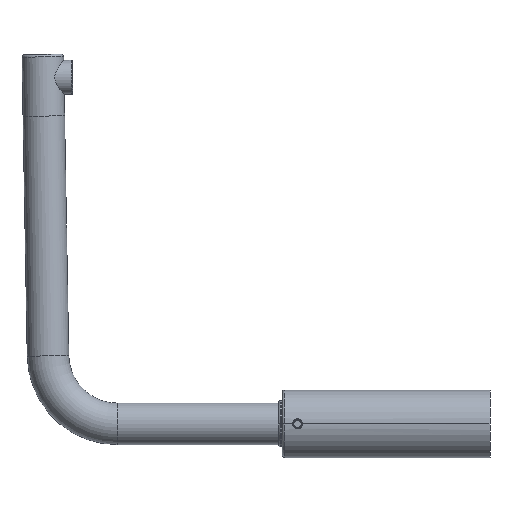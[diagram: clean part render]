
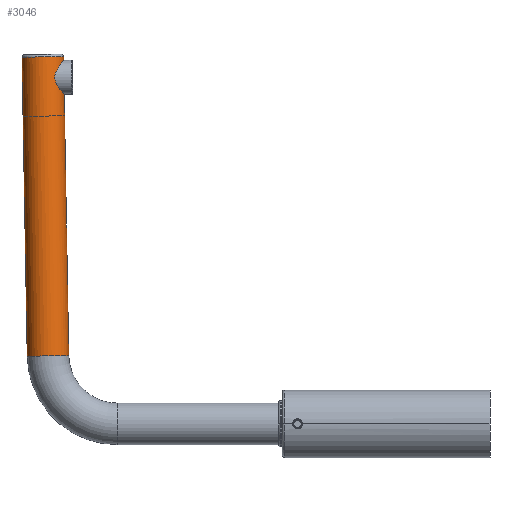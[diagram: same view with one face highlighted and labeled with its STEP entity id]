
A CAD part, left-side view. The second image highlights one B-rep face of the part: STEP entity #3046.
In plain terms, the highlighted cylindrical face has radius 13.5 mm (diameter 27 mm), a partial arc.
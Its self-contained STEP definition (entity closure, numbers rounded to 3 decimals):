
#1089=CARTESIAN_POINT('',(0.,290.584,238.494));
#1090=DIRECTION('',(0.,-0.017,-1.));
#1091=DIRECTION('',(0.,-1.,0.017));
#1092=AXIS2_PLACEMENT_3D('',#1089,#1090,#1091);
#1094=CARTESIAN_POINT('',(0.,276.655,214.034));
#1095=CARTESIAN_POINT('',(-0.156,276.655,
214.034));
#1096=CARTESIAN_POINT('',(-0.469,276.661,
214.04));
#1097=CARTESIAN_POINT('',(-0.939,276.686,
214.069));
#1098=CARTESIAN_POINT('',(-1.409,276.728,214.118));
#1099=CARTESIAN_POINT('',(-1.879,276.787,214.187));
#1100=CARTESIAN_POINT('',(-2.35,276.863,214.276));
#1101=CARTESIAN_POINT('',(-2.821,276.957,214.386));
#1102=CARTESIAN_POINT('',(-3.291,277.068,214.517));
#1103=CARTESIAN_POINT('',(-3.762,277.198,214.671));
#1104=CARTESIAN_POINT('',(-4.231,277.347,214.848));
#1105=CARTESIAN_POINT('',(-4.699,277.514,215.048));
#1106=CARTESIAN_POINT('',(-5.166,277.701,215.274));
#1107=CARTESIAN_POINT('',(-5.63,277.908,215.525));
#1108=CARTESIAN_POINT('',(-6.09,278.135,215.803));
#1109=CARTESIAN_POINT('',(-6.545,278.381,216.11));
#1110=CARTESIAN_POINT('',(-6.993,278.646,216.444));
#1111=CARTESIAN_POINT('',(-7.432,278.93,216.808));
#1112=CARTESIAN_POINT('',(-7.859,279.23,217.202));
#1113=CARTESIAN_POINT('',(-8.27,279.544,217.623));
#1114=CARTESIAN_POINT('',(-8.664,279.869,218.072));
#1115=CARTESIAN_POINT('',(-9.034,280.199,218.543));
#1116=CARTESIAN_POINT('',(-9.378,280.528,219.033));
#1117=CARTESIAN_POINT('',(-9.689,280.848,219.534));
#1118=CARTESIAN_POINT('',(-9.967,281.153,220.037));
#1119=CARTESIAN_POINT('',(-10.21,281.435,220.537));
#1120=CARTESIAN_POINT('',(-10.418,281.691,221.025));
#1121=CARTESIAN_POINT('',(-10.594,281.918,221.498));
#1122=CARTESIAN_POINT('',(-10.741,282.115,221.954));
#1123=CARTESIAN_POINT('',(-10.862,282.284,222.393));
#1124=CARTESIAN_POINT('',(-10.96,282.427,222.815));
#1125=CARTESIAN_POINT('',(-11.039,282.545,223.223));
#1126=CARTESIAN_POINT('',(-11.1,282.639,223.618));
#1127=CARTESIAN_POINT('',(-11.146,282.713,224.004));
#1128=CARTESIAN_POINT('',(-11.177,282.766,224.383));
#1129=CARTESIAN_POINT('',(-11.196,282.8,224.756));
#1130=CARTESIAN_POINT('',(-11.202,282.816,225.128));
#1131=CARTESIAN_POINT('',(-11.196,282.813,225.5));
#1132=CARTESIAN_POINT('',(-11.177,282.792,225.874));
#1133=CARTESIAN_POINT('',(-11.146,282.752,226.254));
#1134=CARTESIAN_POINT('',(-11.1,282.692,226.643));
#1135=CARTESIAN_POINT('',(-11.039,282.611,227.041));
#1136=CARTESIAN_POINT('',(-10.96,282.508,227.453));
#1137=CARTESIAN_POINT('',(-10.862,282.38,227.88));
#1138=CARTESIAN_POINT('',(-10.741,282.226,228.324));
#1139=CARTESIAN_POINT('',(-10.594,282.045,228.787));
#1140=CARTESIAN_POINT('',(-10.418,281.835,229.268));
#1141=CARTESIAN_POINT('',(-10.21,281.596,229.765));
#1142=CARTESIAN_POINT('',(-9.967,281.331,230.274));
#1143=CARTESIAN_POINT('',(-9.689,281.045,230.787));
#1144=CARTESIAN_POINT('',(-9.377,280.742,231.299));
#1145=CARTESIAN_POINT('',(-9.034,280.43,231.8));
#1146=CARTESIAN_POINT('',(-8.664,280.117,232.282));
#1147=CARTESIAN_POINT('',(-8.27,279.808,232.742));
#1148=CARTESIAN_POINT('',(-7.859,279.509,233.174));
#1149=CARTESIAN_POINT('',(-7.432,279.222,233.577));
#1150=CARTESIAN_POINT('',(-6.993,278.952,233.951));
#1151=CARTESIAN_POINT('',(-6.545,278.698,234.295));
#1152=CARTESIAN_POINT('',(-6.09,278.463,234.61));
#1153=CARTESIAN_POINT('',(-5.63,278.246,234.896));
#1154=CARTESIAN_POINT('',(-5.166,278.048,235.154));
#1155=CARTESIAN_POINT('',(-4.699,277.869,235.386));
#1156=CARTESIAN_POINT('',(-4.231,277.709,235.592));
#1157=CARTESIAN_POINT('',(-3.762,277.566,235.774));
#1158=CARTESIAN_POINT('',(-3.291,277.442,235.932));
#1159=CARTESIAN_POINT('',(-2.821,277.335,236.068));
#1160=CARTESIAN_POINT('',(-2.35,277.245,236.181));
#1161=CARTESIAN_POINT('',(-1.879,277.172,236.273));
#1162=CARTESIAN_POINT('',(-1.409,277.116,236.343));
#1163=CARTESIAN_POINT('',(-0.939,277.076,
236.393));
#1164=CARTESIAN_POINT('',(-0.469,277.052,
236.423));
#1165=CARTESIAN_POINT('',(-0.156,277.046,
236.43));
#1166=CARTESIAN_POINT('',(0.,277.046,236.43));
#1168=CARTESIAN_POINT('',(0.,287.193,44.215));
#1169=DIRECTION('',(0.,0.017,1.));
#1170=DIRECTION('',(0.,1.,-0.017));
#1171=AXIS2_PLACEMENT_3D('',#1168,#1169,#1170);
#1173=DIRECTION('',(0.,0.017,1.));
#1174=VECTOR('',#1173,169.609);
#1175=CARTESIAN_POINT('',(0.,273.695,44.45));
#1176=LINE('',#1175,#1174);
#1251=DIRECTION('',(0.,-0.017,-1.));
#1252=VECTOR('',#1251,2.3);
#1253=CARTESIAN_POINT('',(0.,277.086,
238.73));
#1254=LINE('',#1253,#1252);
#1260=DIRECTION('',(0.,-0.017,-1.));
#1261=VECTOR('',#1260,194.309);
#1262=CARTESIAN_POINT('',(0.,304.082,
238.259));
#1263=LINE('',#1262,#1261);
#1734=CARTESIAN_POINT('',(0.,300.691,
43.979));
#1735=CARTESIAN_POINT('',(0.,273.695,44.45));
#1736=VERTEX_POINT('',#1734);
#1737=VERTEX_POINT('',#1735);
#1746=CARTESIAN_POINT('',(0.,276.655,214.034));
#1747=VERTEX_POINT('',#1746);
#1748=CARTESIAN_POINT('',(0.,277.046,236.43));
#1749=VERTEX_POINT('',#1748);
#1750=CARTESIAN_POINT('',(0.,304.082,
238.259));
#1751=CARTESIAN_POINT('',(0.,277.086,238.73));
#1752=VERTEX_POINT('',#1750);
#1753=VERTEX_POINT('',#1751);
#3028=CARTESIAN_POINT('',(0.,287.193,44.215));
#3029=DIRECTION('',(0.,0.017,1.));
#3030=DIRECTION('',(0.,1.,-0.017));
#3031=AXIS2_PLACEMENT_3D('',#3028,#3029,#3030);
#3032=CYLINDRICAL_SURFACE('',#3031,13.5);
#3034=ORIENTED_EDGE('',*,*,#3033,.F.);
#3036=ORIENTED_EDGE('',*,*,#3035,.F.);
#3038=ORIENTED_EDGE('',*,*,#3037,.T.);
#3040=ORIENTED_EDGE('',*,*,#3039,.F.);
#3042=ORIENTED_EDGE('',*,*,#3041,.F.);
#3043=ORIENTED_EDGE('',*,*,#3015,.F.);
#3044=EDGE_LOOP('',(#3034,#3036,#3038,#3040,#3042,#3043));
#3045=FACE_OUTER_BOUND('',#3044,.F.);
#1093=CIRCLE('',#1092,13.5);
#1167=B_SPLINE_CURVE_WITH_KNOTS('',3,(#1094,#1095,#1096,#1097,#1098,#1099,#1100,
#1101,#1102,#1103,#1104,#1105,#1106,#1107,#1108,#1109,#1110,#1111,#1112,#1113,
#1114,#1115,#1116,#1117,#1118,#1119,#1120,#1121,#1122,#1123,#1124,#1125,#1126,
#1127,#1128,#1129,#1130,#1131,#1132,#1133,#1134,#1135,#1136,#1137,#1138,#1139,
#1140,#1141,#1142,#1143,#1144,#1145,#1146,#1147,#1148,#1149,#1150,#1151,#1152,
#1153,#1154,#1155,#1156,#1157,#1158,#1159,#1160,#1161,#1162,#1163,#1164,#1165,
#1166),.UNSPECIFIED.,.F.,.F.,(4,1,1,1,1,1,1,1,1,1,1,1,1,1,1,1,1,1,1,1,1,1,1,1,1,
1,1,1,1,1,1,1,1,1,1,1,1,1,1,1,1,1,1,1,1,1,1,1,1,1,1,1,1,1,1,1,1,1,1,1,1,1,1,1,1,
1,1,1,1,1,4),(0.,0.014,0.029,0.043,
0.057,0.071,0.086,0.1,0.114,
0.129,0.143,0.157,0.171,
0.186,0.2,0.214,0.229,0.243,
0.257,0.271,0.286,0.3,0.314,
0.329,0.343,0.357,0.371,
0.386,0.4,0.414,0.429,0.443,
0.457,0.471,0.486,0.5,0.514,
0.529,0.543,0.557,0.571,
0.586,0.6,0.614,0.629,0.643,
0.657,0.671,0.686,0.7,0.714,
0.729,0.743,0.757,0.771,
0.786,0.8,0.814,0.829,0.843,
0.857,0.871,0.886,0.9,0.914,
0.929,0.943,0.957,0.971,
0.986,1.),.UNSPECIFIED.);
#1172=CIRCLE('',#1171,13.5);
#3015=EDGE_CURVE('',#1736,#1737,#1172,.T.);
#3033=EDGE_CURVE('',#1752,#1736,#1263,.T.);
#3035=EDGE_CURVE('',#1753,#1752,#1093,.T.);
#3037=EDGE_CURVE('',#1753,#1749,#1254,.T.);
#3039=EDGE_CURVE('',#1747,#1749,#1167,.T.);
#3041=EDGE_CURVE('',#1737,#1747,#1176,.T.);
#3046=ADVANCED_FACE('',(#3045),#3032,.T.);
